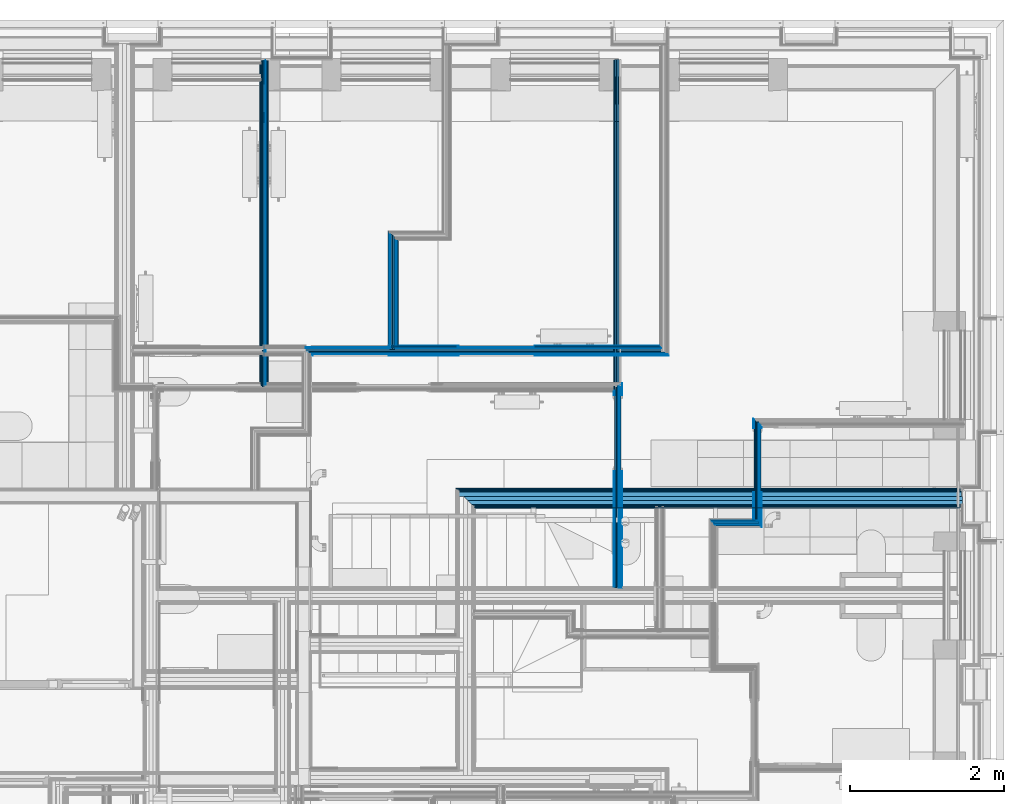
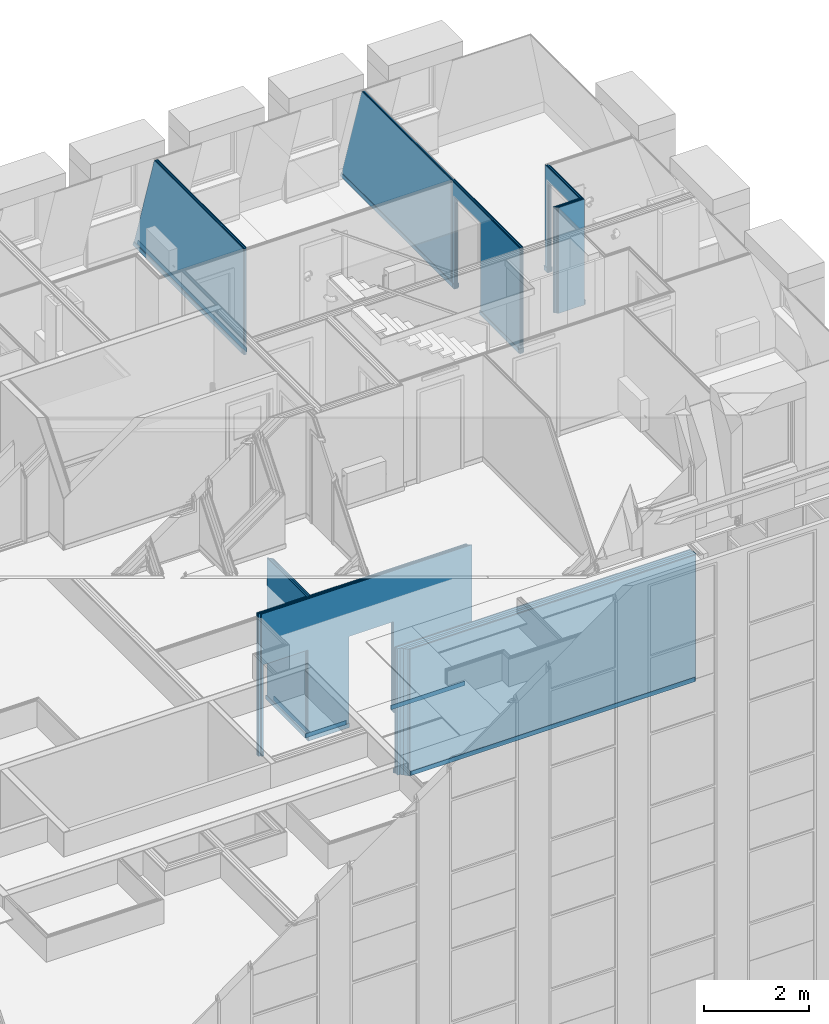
# One storey, part 44 of 169: 57 building element parts, 4 openings, 7 elements without a shape of their own.
"""IFC2X3 building model written with IfcOpenShell, lengths in metres."""

from ifc_helpers import new_model, entity, si_unit, converted_unit, derived_unit, money_unit, direction, frame, frame_2d, origin_with_axes, place, context, subcontext, project, spatial, polyline, rectangle, outline, extrude, clip, halfspace, material, type_object, element, aggregate, save


model = new_model("IFC2X3")

# Units and contexts
model_context = context("Model", 3, precision=1e-05, world=origin_with_axes(), true_north=direction((0.0, 1.0)))
body_context = subcontext(model_context, "Body", "Model", "MODEL_VIEW", scale=1.0)
ifc_project = project(units=[si_unit("LENGTHUNIT", "METRE"), si_unit("AREAUNIT", "SQUARE_METRE"), si_unit("VOLUMEUNIT", "CUBIC_METRE"), si_unit("ABSORBEDDOSEUNIT", "GRAY"), si_unit("AMOUNTOFSUBSTANCEUNIT", "MOLE"), si_unit("DOSEEQUIVALENTUNIT", "SIEVERT"), si_unit("ELECTRICCAPACITANCEUNIT", "FARAD"), si_unit("ELECTRICCHARGEUNIT", "COULOMB"), si_unit("ELECTRICCONDUCTANCEUNIT", "SIEMENS"), si_unit("ELECTRICCURRENTUNIT", "AMPERE"), si_unit("ELECTRICRESISTANCEUNIT", "OHM"), si_unit("ELECTRICVOLTAGEUNIT", "VOLT"), si_unit("ENERGYUNIT", "JOULE"), si_unit("FORCEUNIT", "NEWTON"), si_unit("FREQUENCYUNIT", "HERTZ"), si_unit("ILLUMINANCEUNIT", "LUX"), si_unit("INDUCTANCEUNIT", "HENRY"), si_unit("LUMINOUSFLUXUNIT", "LUMEN"), si_unit("LUMINOUSINTENSITYUNIT", "CANDELA"), si_unit("MAGNETICFLUXDENSITYUNIT", "TESLA"), si_unit("MAGNETICFLUXUNIT", "WEBER"), si_unit("MASSUNIT", "GRAM"), converted_unit("PLANEANGLEUNIT", "degree", entity("IfcReal", 0.0174532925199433), si_unit("PLANEANGLEUNIT", "RADIAN"), dimensions=[0, 0, 0, 0, 0, 0, 0]), si_unit("POWERUNIT", "WATT"), si_unit("PRESSUREUNIT", "PASCAL"), si_unit("RADIOACTIVITYUNIT", "BECQUEREL"), si_unit("SOLIDANGLEUNIT", "STERADIAN"), si_unit("THERMODYNAMICTEMPERATUREUNIT", "KELVIN"), si_unit("TIMEUNIT", "SECOND"), derived_unit("ACCELERATIONUNIT", [(si_unit("LENGTHUNIT", "METRE"), 1), (si_unit("TIMEUNIT", "SECOND"), -2)]), derived_unit("ANGULARVELOCITYUNIT", [(converted_unit("PLANEANGLEUNIT", "degree", entity("IfcReal", 0.0174532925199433), si_unit("PLANEANGLEUNIT", "RADIAN"), dimensions=[0, 0, 0, 0, 0, 0, 0]), 1), (si_unit("TIMEUNIT", "SECOND"), -1)]), derived_unit("CURVATUREUNIT", [(converted_unit("PLANEANGLEUNIT", "degree", entity("IfcReal", 0.0174532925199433), si_unit("PLANEANGLEUNIT", "RADIAN"), dimensions=[0, 0, 0, 0, 0, 0, 0]), 1), (si_unit("LENGTHUNIT", "METRE"), -1)]), derived_unit("DYNAMICVISCOSITYUNIT", [(si_unit("PRESSUREUNIT", "PASCAL"), 1), (si_unit("TIMEUNIT", "SECOND"), 1)]), derived_unit("HEATFLUXDENSITYUNIT", [(si_unit("POWERUNIT", "WATT"), 1), (si_unit("LENGTHUNIT", "METRE"), -2)]), derived_unit("HEATINGVALUEUNIT", [(si_unit("ENERGYUNIT", "JOULE"), 1), (si_unit("MASSUNIT", "GRAM"), -1)]), derived_unit("INTEGERCOUNTRATEUNIT", [(si_unit("TIMEUNIT", "SECOND"), -1)]), derived_unit("IONCONCENTRATIONUNIT", [(si_unit("MASSUNIT", "GRAM"), 1), (si_unit("VOLUMEUNIT", "CUBIC_METRE"), -1)]), derived_unit("ISOTHERMALMOISTURECAPACITYUNIT", [(si_unit("VOLUMEUNIT", "CUBIC_METRE"), 1), (si_unit("MASSUNIT", "GRAM"), -1)]), derived_unit("KINEMATICVISCOSITYUNIT", [(si_unit("AREAUNIT", "SQUARE_METRE"), 1), (si_unit("TIMEUNIT", "SECOND"), -1)]), derived_unit("LINEARFORCEUNIT", [(si_unit("FORCEUNIT", "NEWTON"), 1), (si_unit("LENGTHUNIT", "METRE"), -1)]), derived_unit("LINEARMOMENTUNIT", [(si_unit("FORCEUNIT", "NEWTON"), 1), (si_unit("LENGTHUNIT", "METRE"), -1)]), derived_unit("LINEARSTIFFNESSUNIT", [(si_unit("FORCEUNIT", "NEWTON"), 1), (si_unit("LENGTHUNIT", "METRE"), -1)]), derived_unit("LINEARVELOCITYUNIT", [(si_unit("LENGTHUNIT", "METRE"), 1), (si_unit("TIMEUNIT", "SECOND"), -1)]), derived_unit("LUMINOUSINTENSITYDISTRIBUTIONUNIT", [(si_unit("LUMINOUSINTENSITYUNIT", "CANDELA"), 1), (si_unit("LUMINOUSFLUXUNIT", "LUMEN"), -1)]), derived_unit("MASSDENSITYUNIT", [(si_unit("MASSUNIT", "GRAM"), 1), (si_unit("VOLUMEUNIT", "CUBIC_METRE"), -1)]), derived_unit("MASSFLOWRATEUNIT", [(si_unit("MASSUNIT", "GRAM"), 1), (si_unit("TIMEUNIT", "SECOND"), -1)]), derived_unit("MASSPERLENGTHUNIT", [(si_unit("MASSUNIT", "GRAM"), 1), (si_unit("LENGTHUNIT", "METRE"), -1)]), derived_unit("MODULUSOFELASTICITYUNIT", [(si_unit("FORCEUNIT", "NEWTON"), 1), (si_unit("AREAUNIT", "SQUARE_METRE"), -1)]), derived_unit("MODULUSOFLINEARSUBGRADEREACTIONUNIT", [(si_unit("FORCEUNIT", "NEWTON"), 1), (si_unit("LENGTHUNIT", "METRE"), -2)]), derived_unit("MODULUSOFROTATIONALSUBGRADEREACTIONUNIT", [(si_unit("FORCEUNIT", "NEWTON"), 1), (si_unit("LENGTHUNIT", "METRE"), 1)]), derived_unit("MODULUSOFSUBGRADEREACTIONUNIT", [(si_unit("FORCEUNIT", "NEWTON"), 1), (si_unit("VOLUMEUNIT", "CUBIC_METRE"), -1)]), derived_unit("MOISTUREDIFFUSIVITYUNIT", [(si_unit("VOLUMEUNIT", "CUBIC_METRE"), 1), (si_unit("TIMEUNIT", "SECOND"), -1)]), derived_unit("MOLECULARWEIGHTUNIT", [(si_unit("MASSUNIT", "GRAM"), 1), (si_unit("AMOUNTOFSUBSTANCEUNIT", "MOLE"), -1)]), derived_unit("PLANARFORCEUNIT", [(si_unit("FORCEUNIT", "NEWTON"), 1), (si_unit("LENGTHUNIT", "METRE"), -2)]), derived_unit("ROTATIONALFREQUENCYUNIT", [(si_unit("TIMEUNIT", "SECOND"), -1)]), derived_unit("ROTATIONALMASSUNIT", [(si_unit("MASSUNIT", "GRAM"), 1), (si_unit("LENGTHUNIT", "METRE"), 2)]), derived_unit("ROTATIONALSTIFFNESSUNIT", [(si_unit("FORCEUNIT", "NEWTON"), 1), (si_unit("LENGTHUNIT", "METRE"), 1), (converted_unit("PLANEANGLEUNIT", "degree", entity("IfcReal", 0.0174532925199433), si_unit("PLANEANGLEUNIT", "RADIAN"), dimensions=[0, 0, 0, 0, 0, 0, 0]), -1)]), derived_unit("SECTIONAREAINTEGRALUNIT", [(si_unit("LENGTHUNIT", "METRE"), 5)]), derived_unit("SECTIONMODULUSUNIT", [(si_unit("LENGTHUNIT", "METRE"), 3)]), derived_unit("SHEARMODULUSUNIT", [(si_unit("FORCEUNIT", "NEWTON"), 1), (si_unit("AREAUNIT", "SQUARE_METRE"), -1)]), derived_unit("SOUNDPOWERUNIT", [(si_unit("ENERGYUNIT", "JOULE"), 1), (si_unit("TIMEUNIT", "SECOND"), -1)]), derived_unit("SPECIFICHEATCAPACITYUNIT", [(si_unit("FORCEUNIT", "NEWTON"), 1), (si_unit("MASSUNIT", "GRAM"), -1), (si_unit("THERMODYNAMICTEMPERATUREUNIT", "KELVIN"), -1)]), derived_unit("TEMPERATUREGRADIENTUNIT", [(si_unit("THERMODYNAMICTEMPERATUREUNIT", "KELVIN"), 1), (si_unit("LENGTHUNIT", "METRE"), -1)]), derived_unit("THERMALADMITTANCEUNIT", [(si_unit("POWERUNIT", "WATT"), 1), (si_unit("AREAUNIT", "SQUARE_METRE"), -1), (si_unit("THERMODYNAMICTEMPERATUREUNIT", "KELVIN"), -1)]), derived_unit("THERMALCONDUCTANCEUNIT", [(si_unit("POWERUNIT", "WATT"), 1), (si_unit("LENGTHUNIT", "METRE"), -1), (si_unit("THERMODYNAMICTEMPERATUREUNIT", "KELVIN"), -1)]), derived_unit("THERMALEXPANSIONCOEFFICIENTUNIT", [(si_unit("THERMODYNAMICTEMPERATUREUNIT", "KELVIN"), -1)]), derived_unit("THERMALRESISTANCEUNIT", [(si_unit("AREAUNIT", "SQUARE_METRE"), 1), (si_unit("POWERUNIT", "WATT"), -1)]), derived_unit("THERMALTRANSMITTANCEUNIT", [(si_unit("POWERUNIT", "WATT"), 1), (si_unit("AREAUNIT", "SQUARE_METRE"), -1), (si_unit("THERMODYNAMICTEMPERATUREUNIT", "KELVIN"), -1)]), derived_unit("TORQUEUNIT", [(si_unit("FORCEUNIT", "NEWTON"), 1), (si_unit("LENGTHUNIT", "METRE"), 1)]), derived_unit("VAPORPERMEABILITYUNIT", [(si_unit("MASSUNIT", "GRAM"), 1), (si_unit("TIMEUNIT", "SECOND"), -1)]), derived_unit("VOLUMETRICFLOWRATEUNIT", [(si_unit("VOLUMEUNIT", "CUBIC_METRE"), 1), (si_unit("TIMEUNIT", "SECOND"), -1)]), derived_unit("WARPINGCONSTANTUNIT", [(si_unit("LENGTHUNIT", "METRE"), 6)]), derived_unit("WARPINGMOMENTUNIT", [(si_unit("FORCEUNIT", "NEWTON"), 1), (si_unit("LENGTHUNIT", "METRE"), 2)]), money_unit("GBP")], contexts=[model_context])

# Site, building, storey
site_placement = place(None, origin_with_axes())
site = spatial("IfcSite", under=ifc_project, at=site_placement, Name="Site", CompositionType="ELEMENT")
building_placement = place(site_placement, origin_with_axes())
building = spatial("IfcBuilding", under=site, at=building_placement, Name="Building01", CompositionType="ELEMENT")
storey_placement = place(building_placement, frame((0.0, 0.0, 5.15), z_axis=(0.0, 0.0, 1.0), x_axis=(1.0, 0.0, 0.0)))
storey = spatial("IfcBuildingStorey", under=building, at=storey_placement, Name="1F", CompositionType="ELEMENT", Elevation=5.15)

# Wall, building element parts
wall_type_1 = type_object("IfcWallType", Name="SHE_A-Walls_Type05a_Partition_95mm_tall", PredefinedType="NOTDEFINED")
wall_1_placement = place(storey_placement, frame((19.085284, 10.63, 0.0), z_axis=(0.0, 0.0, 1.0), x_axis=(0.0, 1.0, 0.0)))
wall_1 = element("IfcWall", 1, at=wall_1_placement, inside=storey, type_object=wall_type_1, Name="5A", ObjectType="SHE_A-Walls_Type05a_Partition_95mm_tall")
ifc_material_1 = material(Name="A_BSUK_Walls_Timber")
placement_1 = place(wall_1_placement, origin_with_axes())
building_element_part_1 = element("IfcBuildingElementPart", 2, at=placement_1, material=ifc_material_1, Name="1", context=body_context, shape_type="SweptSolid", body=[
    extrude(outline(polyline([(1.434378, -0.035), (0.05, -0.035), (0.05, -0.05), (1.419378, -0.05), (1.434378, -0.035)])), frame((0.0, 0.0, 0.015), z_axis=(0.0, 0.0, 1.0), x_axis=(1.0, 0.0, 0.0)), (0.0, 0.0, 1.0), 0.1),
])
ifc_material_2 = material(Name="A_BSUK_WallInternal_Finishes_Plasterboard")
building_element_part_2 = element("IfcBuildingElementPart", 3, at=placement_1, material=ifc_material_2, Name="2", context=body_context, shape_type="SweptSolid", body=[
    extrude(outline(polyline([(1.446378, -0.023), (0.035, -0.023), (0.035, -0.035), (1.434378, -0.035), (1.446378, -0.023)])), origin_with_axes(), (0.0, 0.0, 1.0), 3.32),
])
ifc_material_3 = material(Name="Air Cavity")
building_element_part_3 = element("IfcBuildingElementPart", 4, at=placement_1, material=ifc_material_3, Name="3", context=body_context, shape_type="SweptSolid", body=[
    extrude(outline(polyline([(1.469378, 0.0), (0.035, 0.0), (0.035, -0.023), (1.446378, -0.023), (1.469378, 0.0)])), origin_with_axes(), (0.0, 0.0, 1.0), 3.32),
])
ifc_material_4 = material(Name="A_BSUK_Insulation")
building_element_part_4 = element("IfcBuildingElementPart", 5, at=placement_1, material=ifc_material_4, Name="4", context=body_context, shape_type="SweptSolid", body=[
    extrude(outline(polyline([(1.494378, 0.025), (0.0, 0.025), (0.0, 0.0), (1.469378, 0.0), (1.494378, 0.025)])), origin_with_axes(), (0.0, 0.0, 1.0), 3.32),
])
building_element_part_5 = element("IfcBuildingElementPart", 6, at=placement_1, material=ifc_material_3, Name="5", context=body_context, shape_type="SweptSolid", body=[
    extrude(outline(polyline([(1.517378, 0.048), (0.0, 0.048), (0.0, 0.025), (1.494378, 0.025), (1.517378, 0.048)])), origin_with_axes(), (0.0, 0.0, 1.0), 3.32),
])
building_element_part_6 = element("IfcBuildingElementPart", 7, at=placement_1, material=ifc_material_2, Name="6", context=body_context, shape_type="SweptSolid", body=[
    extrude(outline(polyline([(1.529378, 0.06), (0.035, 0.06), (0.035, 0.048), (1.517378, 0.048), (1.529378, 0.06)])), origin_with_axes(), (0.0, 0.0, 1.0), 3.32),
])
building_element_part_7 = element("IfcBuildingElementPart", 8, at=placement_1, material=ifc_material_1, Name="7", context=body_context, shape_type="SweptSolid", body=[
    extrude(outline(polyline([(1.544378, 0.075), (0.05, 0.075), (0.035, 0.06), (1.529378, 0.06), (1.544378, 0.075)])), frame((0.0, 0.0, 0.015), z_axis=(0.0, 0.0, 1.0), x_axis=(1.0, 0.0, 0.0)), (0.0, 0.0, 1.0), 0.1),
])
aggregate(wall_1, [building_element_part_1, building_element_part_2, building_element_part_3, building_element_part_4, building_element_part_5, building_element_part_6, building_element_part_7])

wall_type_2 = type_object("IfcWallType", Name="SHE_A-Walls_Type01c_Partywall_225mm_twin_tall", PredefinedType="NOTDEFINED")
wall_2_placement = place(storey_placement, frame((26.444, 8.732, 0.0), z_axis=(0.0, 0.0, 1.0), x_axis=(-1.0, 0.0, 0.0)))
wall_2 = element("IfcWall", 9, at=wall_2_placement, inside=storey, type_object=wall_type_2, Name="1C", ObjectType="SHE_A-Walls_Type01c_Partywall_225mm_twin_tall")
placement_2 = place(wall_2_placement, origin_with_axes())
building_element_part_8 = element("IfcBuildingElementPart", 10, at=placement_2, material=ifc_material_1, Name="1", context=body_context, shape_type="SweptSolid", body=[
    extrude(outline(polyline([(6.546339, -0.088), (0.027, -0.088), (0.027, -0.103), (6.561339, -0.103), (6.546339, -0.088)])), frame((0.0, 0.0, 0.015), z_axis=(0.0, 0.0, 1.0), x_axis=(1.0, 0.0, 0.0)), (0.0, 0.0, 1.0), 0.1),
])
building_element_part_9 = element("IfcBuildingElementPart", 11, at=placement_2, material=ifc_material_2, Name="2", context=body_context, shape_type="SweptSolid", body=[
    extrude(rectangle(XDim=6.504339, YDim=0.015, at=frame_2d((3.279169, -0.0805), x_axis=(-1.0, 0.0))), origin_with_axes(), (0.0, 0.0, 1.0), 2.95),
])
building_element_part_10 = element("IfcBuildingElementPart", 12, at=placement_2, material=ifc_material_2, Name="3", context=body_context, shape_type="SweptSolid", body=[
    extrude(rectangle(XDim=6.504339, YDim=0.015, at=frame_2d((3.264169, -0.0655), x_axis=(-1.0, 0.0))), origin_with_axes(), (0.0, 0.0, 1.0), 2.95),
])
building_element_part_11 = element("IfcBuildingElementPart", 13, at=placement_2, material=ifc_material_3, Name="4", context=body_context, shape_type="SweptSolid", body=[
    extrude(rectangle(XDim=6.504339, YDim=0.058, at=frame_2d((3.264169, -0.029), x_axis=(-1.0, 0.0))), origin_with_axes(), (0.0, 0.0, 1.0), 2.95),
])
building_element_part_12 = element("IfcBuildingElementPart", 14, at=placement_2, material=ifc_material_4, Name="5", context=body_context, shape_type="SweptSolid", body=[
    extrude(outline(polyline([(6.408339, 0.05), (0.0, 0.05), (0.0, 0.0), (6.458339, 0.0), (6.408339, 0.05)])), origin_with_axes(), (0.0, 0.0, 1.0), 2.95),
])
building_element_part_13 = element("IfcBuildingElementPart", 15, at=placement_2, material=ifc_material_3, Name="6", context=body_context, shape_type="SweptSolid", body=[
    extrude(outline(polyline([(6.351339, 0.107), (0.0, 0.107), (0.0, 0.05), (6.408339, 0.05), (6.351339, 0.107)])), origin_with_axes(), (0.0, 0.0, 1.0), 2.95),
])
building_element_part_14 = element("IfcBuildingElementPart", 16, at=placement_2, material=ifc_material_2, Name="7", context=body_context, shape_type="SweptSolid", body=[
    extrude(rectangle(XDim=0.015, YDim=6.339339, at=frame_2d((3.181669, 0.1145), x_axis=(0.0, -1.0))), origin_with_axes(), (0.0, 0.0, 1.0), 2.95),
])
building_element_part_15 = element("IfcBuildingElementPart", 17, at=placement_2, material=ifc_material_2, Name="8", context=body_context, shape_type="SweptSolid", body=[
    extrude(rectangle(XDim=6.294339, YDim=0.015, at=frame_2d((3.174169, 0.1295), x_axis=(-1.0, 0.0))), origin_with_axes(), (0.0, 0.0, 1.0), 2.95),
])
building_element_part_16 = element("IfcBuildingElementPart", 18, at=placement_2, material=ifc_material_1, Name="9", context=body_context, shape_type="SweptSolid", body=[
    extrude(outline(polyline([(6.306339, 0.152), (0.042, 0.152), (0.027, 0.137), (6.321339, 0.137), (6.306339, 0.152)])), frame((0.0, 0.0, 0.015), z_axis=(0.0, 0.0, 1.0), x_axis=(1.0, 0.0, 0.0)), (0.0, 0.0, 1.0), 0.1),
])
building_element_part_17 = element("IfcBuildingElementPart", 19, at=placement_2, material=ifc_material_1, Name="10", context=body_context, shape_type="SweptSolid", body=[
    extrude(outline(polyline([(6.306339, 0.152), (0.042, 0.152), (0.027, 0.137), (6.321339, 0.137), (6.306339, 0.152)])), frame((0.0, 0.0, 0.015), z_axis=(0.0, 0.0, 1.0), x_axis=(1.0, 0.0, 0.0)), (0.0, 0.0, 1.0), 0.1),
])
building_element_part_18 = element("IfcBuildingElementPart", 20, at=placement_2, material=ifc_material_1, Name="12", context=body_context, shape_type="SweptSolid", body=[
    extrude(outline(polyline([(6.321339, 0.152), (0.042, 0.152), (0.027, 0.137), (6.336339, 0.137), (6.321339, 0.152)])), frame((0.0, 0.0, 0.015), z_axis=(0.0, 0.0, 1.0), x_axis=(1.0, 0.0, 0.0)), (0.0, 0.0, 1.0), 0.1),
])
aggregate(wall_2, [building_element_part_8, building_element_part_9, building_element_part_10, building_element_part_11, building_element_part_12, building_element_part_13, building_element_part_14, building_element_part_15, building_element_part_16, building_element_part_17, building_element_part_18])

# Wall, openings, building element parts
wall_3_placement = place(storey_placement, frame((17.94, 10.605, 0.0), z_axis=(0.0, 0.0, 1.0), x_axis=(1.0, 0.0, 0.0)))
wall_3 = element("IfcWall", 21, at=wall_3_placement, inside=storey, type_object=wall_type_1, Name="5A", ObjectType="SHE_A-Walls_Type05a_Partition_95mm_tall")
opening_1_placement = place(wall_3_placement, frame((0.093398, -0.05, -0.015), z_axis=(0.0, 0.0, 1.0), x_axis=(1.0, 0.0, 0.0)))
element("IfcOpeningElement", 22, at=opening_1_placement, cuts=wall_3, Name="Opening", ObjectType="Opening", context=body_context, shape_type="SweptSolid", body=[
    extrude(rectangle(XDim=0.984, YDim=2.142, at=frame_2d((-0.492, 1.071), x_axis=(1.0, 0.0))), frame((0.0, 0.0, 0.0), z_axis=(0.0, 1.0, 0.0), x_axis=(-1.0, 0.0, 0.0)), (0.0, 0.0, 1.0), 0.125),
])
opening_2_placement = place(wall_3_placement, frame((1.978284, -0.05, -0.015), z_axis=(0.0, 0.0, 1.0), x_axis=(1.0, 0.0, 0.0)))
element("IfcOpeningElement", 23, at=opening_2_placement, cuts=wall_3, Name="Opening", ObjectType="Opening", context=body_context, shape_type="SweptSolid", body=[
    extrude(rectangle(XDim=0.984, YDim=2.142, at=frame_2d((-0.492, 1.071), x_axis=(-1.0, 0.0))), frame((0.0, 0.0, 0.0), z_axis=(0.0, 1.0, 0.0), x_axis=(-1.0, 0.0, 0.0)), (0.0, 0.0, 1.0), 0.125),
])
placement_3 = place(wall_3_placement, origin_with_axes())
building_element_part_19 = element("IfcBuildingElementPart", 24, at=placement_3, material=ifc_material_1, Name="1", context=body_context, shape_type="SweptSolid", body=[
    extrude(outline(polyline([(4.685, -0.035), (0.06, -0.035), (0.06, -0.05), (4.7, -0.05), (4.685, -0.035)])), frame((0.0, 0.0, 0.015), z_axis=(0.0, 0.0, 1.0), x_axis=(1.0, 0.0, 0.0)), (0.0, 0.0, 1.0), 0.1),
])
building_element_part_20 = element("IfcBuildingElementPart", 25, at=placement_3, material=ifc_material_2, Name="2", context=body_context, shape_type="SweptSolid", body=[
    extrude(outline(polyline([(4.673, -0.023), (0.048, -0.023), (0.048, -0.035), (4.685, -0.035), (4.673, -0.023)])), origin_with_axes(), (0.0, 0.0, 1.0), 3.32),
])
building_element_part_21 = element("IfcBuildingElementPart", 26, at=placement_3, material=ifc_material_3, Name="3", context=body_context, shape_type="SweptSolid", body=[
    extrude(outline(polyline([(4.65, 0.0), (0.048, 0.0), (0.048, -0.023), (4.673, -0.023), (4.65, 0.0)])), origin_with_axes(), (0.0, 0.0, 1.0), 3.32),
])
building_element_part_22 = element("IfcBuildingElementPart", 27, at=placement_3, material=ifc_material_4, Name="4", context=body_context, shape_type="SweptSolid", body=[
    extrude(rectangle(XDim=4.625, YDim=0.025, at=frame_2d((2.3125, 0.0125), x_axis=(-1.0, 0.0))), origin_with_axes(), (0.0, 0.0, 1.0), 3.32),
])
building_element_part_23 = element("IfcBuildingElementPart", 28, at=placement_3, material=ifc_material_3, Name="5", context=body_context, shape_type="SweptSolid", body=[
    extrude(rectangle(XDim=4.625, YDim=0.023, at=frame_2d((2.3125, 0.0365), x_axis=(-1.0, 0.0))), origin_with_axes(), (0.0, 0.0, 1.0), 3.32),
])
building_element_part_24 = element("IfcBuildingElementPart", 29, at=placement_3, material=ifc_material_2, Name="6", context=body_context, shape_type="SweptSolid", body=[
    extrude(rectangle(XDim=1.097284, YDim=0.012, at=frame_2d((0.548642, 0.054), x_axis=(-1.0, 0.0))), origin_with_axes(), (0.0, 0.0, 1.0), 3.32),
])
building_element_part_25 = element("IfcBuildingElementPart", 30, at=placement_3, material=ifc_material_2, Name="7", context=body_context, shape_type="SweptSolid", body=[
    extrude(outline(polyline([(4.59, 0.06), (1.168284, 0.06), (1.168284, 0.048), (4.602, 0.048), (4.59, 0.06)])), origin_with_axes(), (0.0, 0.0, 1.0), 3.32),
])
building_element_part_26 = element("IfcBuildingElementPart", 31, at=placement_3, material=ifc_material_1, Name="8", context=body_context, shape_type="SweptSolid", body=[
    extrude(rectangle(XDim=0.015, YDim=0.881, at=frame_2d((1.510784, 0.0675), x_axis=(0.0, -1.0))), frame((0.0, 0.0, 0.015), z_axis=(0.0, 0.0, 1.0), x_axis=(1.0, 0.0, 0.0)), (0.0, 0.0, 1.0), 0.1),
])
building_element_part_27 = element("IfcBuildingElementPart", 32, at=placement_3, material=ifc_material_1, Name="9", context=body_context, shape_type="SweptSolid", body=[
    extrude(outline(polyline([(4.575, 0.075), (1.070284, 0.075), (1.085284, 0.06), (4.59, 0.06), (4.575, 0.075)])), frame((0.0, 0.0, 0.015), z_axis=(0.0, 0.0, 1.0), x_axis=(1.0, 0.0, 0.0)), (0.0, 0.0, 1.0), 0.1),
])
building_element_part_28 = element("IfcBuildingElementPart", 33, at=placement_3, material=ifc_material_1, Name="10", context=body_context, shape_type="SweptSolid", body=[
    extrude(outline(polyline([(4.575, 0.075), (1.180284, 0.075), (1.180284, 0.06), (4.59, 0.06), (4.575, 0.075)])), frame((0.0, 0.0, 0.015), z_axis=(0.0, 0.0, 1.0), x_axis=(1.0, 0.0, 0.0)), (0.0, 0.0, 1.0), 0.1),
])
building_element_part_29 = element("IfcBuildingElementPart", 34, at=placement_3, material=ifc_material_1, Name="11", context=body_context, shape_type="SweptSolid", body=[
    extrude(outline(polyline([(4.575, 0.075), (2.920284, 0.075), (2.920284, 0.06), (4.59, 0.06), (4.575, 0.075)])), frame((0.0, 0.0, 0.015), z_axis=(0.0, 0.0, 1.0), x_axis=(1.0, 0.0, 0.0)), (0.0, 0.0, 1.0), 0.1),
])
aggregate(wall_3, [building_element_part_19, building_element_part_20, building_element_part_21, building_element_part_22, building_element_part_23, building_element_part_24, building_element_part_25, building_element_part_26, building_element_part_27, building_element_part_28, building_element_part_29])

# Wall, building element parts
wall_type_3 = type_object("IfcWallType", Name="SHE_A-Walls_Type05b_Partition_80mm", PredefinedType="NOTDEFINED")
wall_4_placement = place(storey_placement, frame((17.412976, 10.151939, 9.83), z_axis=(0.0, 0.0, 1.0), x_axis=(0.0, 1.0, 0.0)))
wall_4 = element("IfcWall", 35, at=wall_4_placement, inside=storey, type_object=wall_type_3, Name="5B", ObjectType="SHE_A-Walls_Type05b_Partition_80mm")
placement_4 = place(wall_4_placement, origin_with_axes())
building_element_part_30 = element("IfcBuildingElementPart", 36, at=placement_4, material=ifc_material_1, Name="1", context=body_context, shape_type="Clipping", body=[
    clip(extrude(rectangle(XDim=4.17633, YDim=0.015, at=frame_2d((2.131165, -0.0345), x_axis=(-1.0, 0.0))), frame((0.0, 0.0, 0.015), z_axis=(0.0, 0.0, 1.0), x_axis=(1.0, 0.0, 0.0)), (0.0, 0.0, 1.0), 0.1), halfspace(frame((3.820828, 0.0, 1.241462), z_axis=(-0.95105652, 0.0, -0.30901699), x_axis=(0.0, -1.0, 0.0)), True)),
])
building_element_part_31 = element("IfcBuildingElementPart", 37, at=placement_4, material=ifc_material_2, Name="2", context=body_context, shape_type="Clipping", body=[
    clip(extrude(rectangle(XDim=4.196204, YDim=0.015, at=frame_2d((2.126102, -0.0195), x_axis=(-1.0, 0.0))), origin_with_axes(), (0.0, 0.0, 1.0), 2.468), halfspace(frame((3.820828, 0.0, 1.241462), z_axis=(-0.95105652, 0.0, -0.30901699), x_axis=(0.0, -1.0, 0.0)), True)),
])
building_element_part_32 = element("IfcBuildingElementPart", 38, at=placement_4, material=ifc_material_3, Name="3", context=body_context, shape_type="Clipping", body=[
    clip(extrude(rectangle(XDim=4.196204, YDim=0.012, at=frame_2d((2.126102, -0.006), x_axis=(-1.0, 0.0))), origin_with_axes(), (0.0, 0.0, 1.0), 2.468), halfspace(frame((3.820828, 0.0, 1.241462), z_axis=(-0.95105652, 0.0, -0.30901699), x_axis=(0.0, -1.0, 0.0)), True)),
])
building_element_part_33 = element("IfcBuildingElementPart", 39, at=placement_4, material=ifc_material_4, Name="4", context=body_context, shape_type="Clipping", body=[
    clip(extrude(rectangle(XDim=4.224204, YDim=0.025, at=frame_2d((2.112102, 0.0125), x_axis=(-1.0, 0.0))), origin_with_axes(), (0.0, 0.0, 1.0), 2.468), halfspace(frame((3.820828, 0.0, 1.241462), z_axis=(-0.95105652, 0.0, -0.30901699), x_axis=(0.0, -1.0, 0.0)), True)),
])
building_element_part_34 = element("IfcBuildingElementPart", 40, at=placement_4, material=ifc_material_3, Name="5", context=body_context, shape_type="Clipping", body=[
    clip(extrude(rectangle(XDim=4.224204, YDim=0.013, at=frame_2d((2.112102, 0.0315), x_axis=(-1.0, 0.0))), origin_with_axes(), (0.0, 0.0, 1.0), 2.468), halfspace(frame((3.820828, 0.0, 1.241462), z_axis=(-0.95105652, 0.0, -0.30901699), x_axis=(0.0, -1.0, 0.0)), True)),
])
building_element_part_35 = element("IfcBuildingElementPart", 41, at=placement_4, material=ifc_material_2, Name="6", context=body_context, shape_type="Clipping", body=[
    clip(extrude(rectangle(XDim=4.211204, YDim=0.015, at=frame_2d((2.118602, 0.0455), x_axis=(-1.0, 0.0))), origin_with_axes(), (0.0, 0.0, 1.0), 2.468), halfspace(frame((3.820828, 0.0, 1.241462), z_axis=(-0.95105652, 0.0, -0.30901699), x_axis=(0.0, -1.0, 0.0)), True)),
])
building_element_part_36 = element("IfcBuildingElementPart", 42, at=placement_4, material=ifc_material_1, Name="7", context=body_context, shape_type="Clipping", body=[
    clip(extrude(rectangle(XDim=4.17633, YDim=0.015, at=frame_2d((2.131165, 0.0605), x_axis=(-1.0, 0.0))), frame((0.0, 0.0, 0.015), z_axis=(0.0, 0.0, 1.0), x_axis=(1.0, 0.0, 0.0)), (0.0, 0.0, 1.0), 0.1), halfspace(frame((3.820828, 0.0, 1.241462), z_axis=(-0.95105652, 0.0, -0.30901699), x_axis=(0.0, -1.0, 0.0)), True)),
])
aggregate(wall_4, [building_element_part_30, building_element_part_31, building_element_part_32, building_element_part_33, building_element_part_34, building_element_part_35, building_element_part_36])

# Wall, opening, building element parts
wall_5_placement = place(storey_placement, frame((21.992976, 7.549915, 9.83), z_axis=(0.0, 0.0, 1.0), x_axis=(0.0, 1.0, 0.0)))
wall_5 = element("IfcWall", 43, at=wall_5_placement, inside=storey, type_object=wall_type_3, Name="5B", ObjectType="SHE_A-Walls_Type05b_Partition_80mm")
opening_3_placement = place(wall_5_placement, frame((1.508024, 0.068, 0.0), z_axis=(0.0, 0.0, 1.0), x_axis=(1.0, 0.0, 0.0)))
element("IfcOpeningElement", 44, at=opening_3_placement, cuts=wall_5, Name="Opening", ObjectType="Opening", context=body_context, shape_type="SweptSolid", body=[
    extrude(rectangle(XDim=0.984, YDim=2.142, at=frame_2d((0.492, 1.071), x_axis=(1.0, 0.0))), frame((0.0, 0.0, 0.0), z_axis=(0.0, -1.0, 0.0), x_axis=(1.0, 0.0, 0.0)), (0.0, 0.0, 1.0), 0.11),
])
placement_5 = place(wall_5_placement, origin_with_axes())
building_element_part_37 = element("IfcBuildingElementPart", 45, at=placement_5, material=ifc_material_1, Name="1", context=body_context, shape_type="SweptSolid", body=[
    extrude(outline(polyline([(2.630024, -0.027), (0.0, -0.027), (0.0, -0.042), (2.645024, -0.042), (2.630024, -0.027)])), frame((0.0, 0.0, 0.015), z_axis=(0.0, 0.0, 1.0), x_axis=(1.0, 0.0, 0.0)), (0.0, 0.0, 1.0), 0.1),
])
building_element_part_38 = element("IfcBuildingElementPart", 46, at=placement_5, material=ifc_material_2, Name="2", context=body_context, shape_type="SweptSolid", body=[
    extrude(outline(polyline([(2.615024, -0.012), (0.0, -0.012), (0.0, -0.027), (2.630024, -0.027), (2.615024, -0.012)])), origin_with_axes(), (0.0, 0.0, 1.0), 2.468),
])
building_element_part_39 = element("IfcBuildingElementPart", 47, at=placement_5, material=ifc_material_3, Name="3", context=body_context, shape_type="SweptSolid", body=[
    extrude(outline(polyline([(2.603024, 0.0), (0.0, 0.0), (0.0, -0.012), (2.615024, -0.012), (2.603024, 0.0)])), origin_with_axes(), (0.0, 0.0, 1.0), 2.468),
])
building_element_part_40 = element("IfcBuildingElementPart", 48, at=placement_5, material=ifc_material_4, Name="4", context=body_context, shape_type="Clipping", body=[
    clip(extrude(rectangle(XDim=6.836743, YDim=0.025, at=frame_2d((3.418371, 0.0125), x_axis=(-1.0, 0.0))), origin_with_axes(), (0.0, 0.0, 1.0), 2.468), halfspace(frame((6.183892, 0.0, 2.009268), z_axis=(-0.95105652, 0.0, -0.30901699), x_axis=(0.0, -1.0, 0.0)), True)),
])
building_element_part_41 = element("IfcBuildingElementPart", 49, at=placement_5, material=ifc_material_3, Name="5", context=body_context, shape_type="Clipping", body=[
    clip(extrude(rectangle(XDim=6.836743, YDim=0.013, at=frame_2d((3.418371, 0.0315), x_axis=(-1.0, 0.0))), origin_with_axes(), (0.0, 0.0, 1.0), 2.468), halfspace(frame((6.183892, 0.0, 2.009268), z_axis=(-0.95105652, 0.0, -0.30901699), x_axis=(0.0, -1.0, 0.0)), True)),
])
building_element_part_42 = element("IfcBuildingElementPart", 50, at=placement_5, material=ifc_material_2, Name="6", context=body_context, shape_type="SweptSolid", body=[
    extrude(rectangle(XDim=2.565024, YDim=0.015, at=frame_2d((1.282512, 0.0455), x_axis=(-1.0, 0.0))), origin_with_axes(), (0.0, 0.0, 1.0), 2.468),
])
building_element_part_43 = element("IfcBuildingElementPart", 51, at=placement_5, material=ifc_material_2, Name="7", context=body_context, shape_type="Clipping", body=[
    clip(extrude(rectangle(XDim=4.206719, YDim=0.015, at=frame_2d((4.733384, 0.0455), x_axis=(-1.0, 0.0))), origin_with_axes(), (0.0, 0.0, 1.0), 2.468), halfspace(frame((6.183892, 0.0, 2.009268), z_axis=(-0.95105652, 0.0, -0.30901699), x_axis=(0.0, -1.0, 0.0)), True)),
])
building_element_part_44 = element("IfcBuildingElementPart", 52, at=placement_5, material=ifc_material_1, Name="8", context=body_context, shape_type="SweptSolid", body=[
    extrude(outline(polyline([(2.535024, 0.068), (0.015, 0.068), (0.015, 0.053), (2.550024, 0.053), (2.535024, 0.068)])), frame((0.0, 0.0, 0.015), z_axis=(0.0, 0.0, 1.0), x_axis=(1.0, 0.0, 0.0)), (0.0, 0.0, 1.0), 0.1),
])
building_element_part_45 = element("IfcBuildingElementPart", 53, at=placement_5, material=ifc_material_1, Name="9", context=body_context, shape_type="Clipping", body=[
    clip(extrude(outline(polyline([(6.831869, 0.068), (2.535024, 0.068), (2.550024, 0.053), (6.831869, 0.053), (6.831869, 0.068)])), frame((0.0, 0.0, 0.015), z_axis=(0.0, 0.0, 1.0), x_axis=(1.0, 0.0, 0.0)), (0.0, 0.0, 1.0), 0.1), halfspace(frame((6.183892, 0.0, 2.009268), z_axis=(-0.95105652, 0.0, -0.30901699), x_axis=(0.0, -1.0, 0.0)), True)),
])
aggregate(wall_5, [building_element_part_37, building_element_part_38, building_element_part_39, building_element_part_40, building_element_part_41, building_element_part_42, building_element_part_43, building_element_part_44, building_element_part_45])

wall_6_placement = place(storey_placement, frame((23.803, 8.401915, 9.83), z_axis=(0.0, 0.0, 1.0), x_axis=(0.0, 1.0, 0.0)))
wall_6 = element("IfcWall", 54, at=wall_6_placement, inside=storey, type_object=wall_type_3, Name="5B", ObjectType="SHE_A-Walls_Type05b_Partition_80mm")
opening_4_placement = place(wall_6_placement, frame((0.382109, -0.042, 0.0), z_axis=(0.0, 0.0, 1.0), x_axis=(1.0, 0.0, 0.0)))
element("IfcOpeningElement", 55, at=opening_4_placement, cuts=wall_6, Name="Opening", ObjectType="Opening", context=body_context, shape_type="SweptSolid", body=[
    extrude(rectangle(XDim=0.834, YDim=2.142, at=frame_2d((-0.417, 1.071), x_axis=(1.0, 0.0))), frame((0.0, 0.0, 0.0), z_axis=(0.0, 1.0, 0.0), x_axis=(-1.0, 0.0, 0.0)), (0.0, 0.0, 1.0), 0.11),
])
placement_6 = place(wall_6_placement, origin_with_axes())
building_element_part_46 = element("IfcBuildingElementPart", 56, at=placement_6, material=ifc_material_1, Name="1", context=body_context, shape_type="SweptSolid", body=[
    extrude(outline(polyline([(1.243109, -0.027), (-0.052, -0.027), (-0.067, -0.042), (1.228109, -0.042), (1.243109, -0.027)])), frame((0.0, 0.0, 0.015), z_axis=(0.0, 0.0, 1.0), x_axis=(1.0, 0.0, 0.0)), (0.0, 0.0, 1.0), 0.1),
])
building_element_part_47 = element("IfcBuildingElementPart", 57, at=placement_6, material=ifc_material_2, Name="2", context=body_context, shape_type="SweptSolid", body=[
    extrude(outline(polyline([(1.258109, -0.012), (-0.037, -0.012), (-0.052, -0.027), (1.243109, -0.027), (1.258109, -0.012)])), origin_with_axes(), (0.0, 0.0, 1.0), 2.468),
])
building_element_part_48 = element("IfcBuildingElementPart", 58, at=placement_6, material=ifc_material_3, Name="3", context=body_context, shape_type="SweptSolid", body=[
    extrude(outline(polyline([(1.270109, 0.0), (-0.025, 0.0), (-0.037, -0.012), (1.258109, -0.012), (1.270109, 0.0)])), origin_with_axes(), (0.0, 0.0, 1.0), 2.468),
])
building_element_part_49 = element("IfcBuildingElementPart", 59, at=placement_6, material=ifc_material_4, Name="4", context=body_context, shape_type="SweptSolid", body=[
    extrude(rectangle(XDim=1.295109, YDim=0.025, at=frame_2d((0.647555, 0.0125), x_axis=(-1.0, 0.0))), origin_with_axes(), (0.0, 0.0, 1.0), 2.468),
])
building_element_part_50 = element("IfcBuildingElementPart", 60, at=placement_6, material=ifc_material_3, Name="5", context=body_context, shape_type="SweptSolid", body=[
    extrude(rectangle(XDim=1.295109, YDim=0.013, at=frame_2d((0.647555, 0.0315), x_axis=(-1.0, 0.0))), origin_with_axes(), (0.0, 0.0, 1.0), 2.468),
])
building_element_part_51 = element("IfcBuildingElementPart", 61, at=placement_6, material=ifc_material_2, Name="6", context=body_context, shape_type="SweptSolid", body=[
    extrude(outline(polyline([(1.323109, 0.053), (0.028, 0.053), (0.013, 0.038), (1.308109, 0.038), (1.323109, 0.053)])), origin_with_axes(), (0.0, 0.0, 1.0), 2.468),
])
building_element_part_52 = element("IfcBuildingElementPart", 62, at=placement_6, material=ifc_material_1, Name="7", context=body_context, shape_type="SweptSolid", body=[
    extrude(outline(polyline([(1.338109, 0.068), (0.043, 0.068), (0.028, 0.053), (1.323109, 0.053), (1.338109, 0.068)])), frame((0.0, 0.0, 0.015), z_axis=(0.0, 0.0, 1.0), x_axis=(1.0, 0.0, 0.0)), (0.0, 0.0, 1.0), 0.1),
])
aggregate(wall_6, [building_element_part_46, building_element_part_47, building_element_part_48, building_element_part_49, building_element_part_50, building_element_part_51, building_element_part_52])

# Wall, building element parts
wall_7_placement = place(storey_placement, frame((23.206821, 8.401915, 9.83), z_axis=(0.0, 0.0, 1.0), x_axis=(1.0, 0.0, 0.0)))
wall_7 = element("IfcWall", 63, at=wall_7_placement, inside=storey, type_object=wall_type_3, Name="5B", ObjectType="SHE_A-Walls_Type05b_Partition_80mm")
placement_7 = place(wall_7_placement, origin_with_axes())
building_element_part_53 = element("IfcBuildingElementPart", 64, at=placement_7, material=ifc_material_2, Name="2", context=body_context, shape_type="SweptSolid", body=[
    extrude(outline(polyline([(0.608179, -0.037), (0.037, -0.037), (0.052, -0.052), (0.623179, -0.052), (0.608179, -0.037)])), origin_with_axes(), (0.0, 0.0, 1.0), 2.468),
])
building_element_part_54 = element("IfcBuildingElementPart", 65, at=placement_7, material=ifc_material_3, Name="3", context=body_context, shape_type="SweptSolid", body=[
    extrude(outline(polyline([(0.596179, -0.025), (0.025, -0.025), (0.037, -0.037), (0.608179, -0.037), (0.596179, -0.025)])), origin_with_axes(), (0.0, 0.0, 1.0), 2.468),
])
building_element_part_55 = element("IfcBuildingElementPart", 66, at=placement_7, material=ifc_material_4, Name="4", context=body_context, shape_type="SweptSolid", body=[
    extrude(outline(polyline([(0.596179, 0.0), (0.0, 0.0), (0.025, -0.025), (0.596179, -0.025), (0.596179, 0.0)])), origin_with_axes(), (0.0, 0.0, 1.0), 2.468),
])
building_element_part_56 = element("IfcBuildingElementPart", 67, at=placement_7, material=ifc_material_3, Name="5", context=body_context, shape_type="SweptSolid", body=[
    extrude(outline(polyline([(0.596179, 0.013), (-0.013, 0.013), (0.0, 0.0), (0.596179, 0.0), (0.596179, 0.013)])), origin_with_axes(), (0.0, 0.0, 1.0), 2.468),
])
building_element_part_57 = element("IfcBuildingElementPart", 68, at=placement_7, material=ifc_material_2, Name="6", context=body_context, shape_type="SweptSolid", body=[
    extrude(outline(polyline([(0.543179, 0.028), (-0.028, 0.028), (-0.013, 0.013), (0.558179, 0.013), (0.543179, 0.028)])), origin_with_axes(), (0.0, 0.0, 1.0), 2.468),
])
aggregate(wall_7, [building_element_part_53, building_element_part_54, building_element_part_55, building_element_part_56, building_element_part_57])

save(model, "model.ifc")
